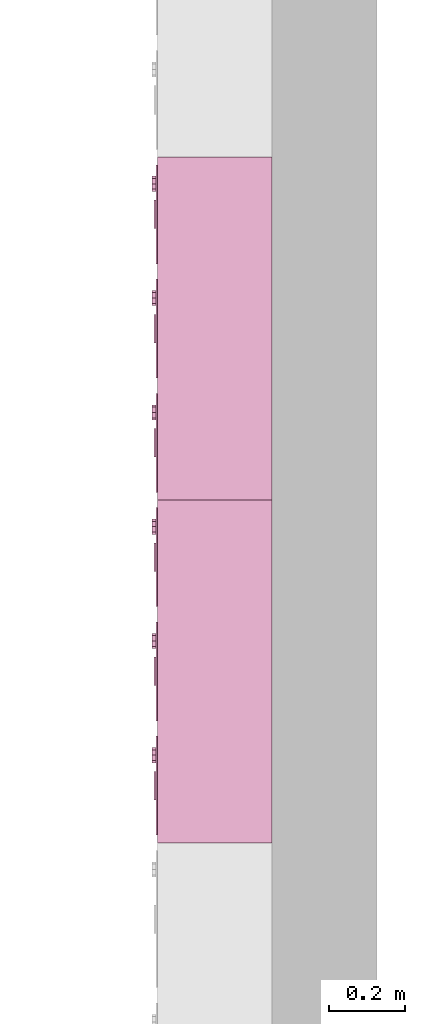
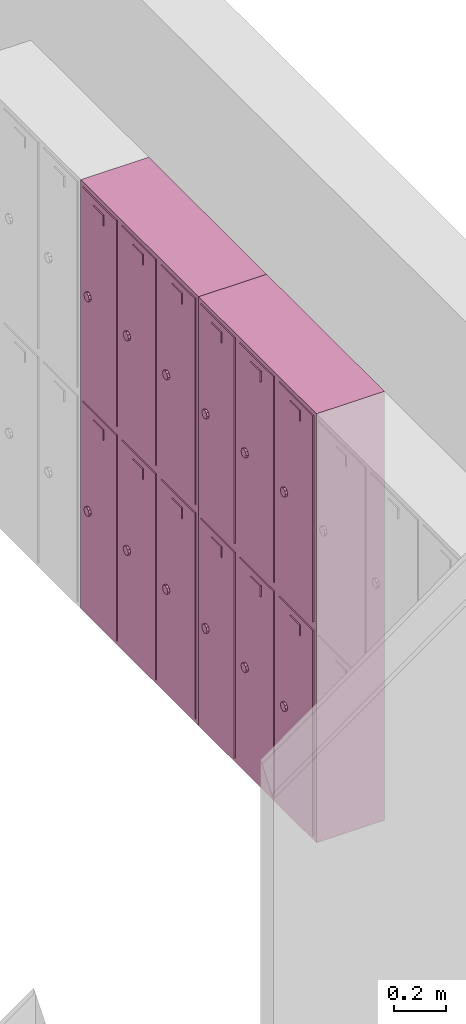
# One storey, part 12 of 22: 2 furnishings.
"""IFC2X3 building model written with IfcOpenShell, lengths in millimetres."""

from ifc_helpers import new_model, entity, si_unit, converted_unit, derived_unit, direction, frame, frame_2d, origin, origin_2d_with_axis, place, context, subcontext, project, spatial, polyline, rectangle, outline, extrude, source, transform, mapped, material, material_list, type_object, type_shapes, element, save


model = new_model("IFC2X3")

# Units and contexts
model_context = context("Model", 3, precision=0.01, world=origin(), true_north=direction((6.12303176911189e-17, 1.0)))
body_context = subcontext(model_context, "Body", "Model", "MODEL_VIEW")
ifc_project = project(units=[si_unit("LENGTHUNIT", "METRE", prefix="MILLI"), si_unit("AREAUNIT", "SQUARE_METRE"), si_unit("VOLUMEUNIT", "CUBIC_METRE"), converted_unit("PLANEANGLEUNIT", "DEGREE", entity("IfcRatioMeasure", 0.0174532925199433), si_unit("PLANEANGLEUNIT", "RADIAN"), dimensions=[0, 0, 0, 0, 0, 0, 0]), si_unit("MASSUNIT", "GRAM", prefix="KILO"), derived_unit("MASSDENSITYUNIT", [(si_unit("MASSUNIT", "GRAM", prefix="KILO"), 1), (si_unit("LENGTHUNIT", "METRE"), -3)]), si_unit("TIMEUNIT", "SECOND"), si_unit("FREQUENCYUNIT", "HERTZ"), si_unit("THERMODYNAMICTEMPERATUREUNIT", "DEGREE_CELSIUS"), derived_unit("THERMALTRANSMITTANCEUNIT", [(si_unit("MASSUNIT", "GRAM", prefix="KILO"), 1), (si_unit("THERMODYNAMICTEMPERATUREUNIT", "KELVIN"), -1), (si_unit("TIMEUNIT", "SECOND"), -3)]), derived_unit("VOLUMETRICFLOWRATEUNIT", [(si_unit("LENGTHUNIT", "METRE"), 3), (si_unit("TIMEUNIT", "SECOND"), -1)]), si_unit("ELECTRICCURRENTUNIT", "AMPERE"), si_unit("ELECTRICVOLTAGEUNIT", "VOLT"), si_unit("POWERUNIT", "WATT"), si_unit("FORCEUNIT", "NEWTON", prefix="KILO"), si_unit("ILLUMINANCEUNIT", "LUX"), si_unit("LUMINOUSFLUXUNIT", "LUMEN"), si_unit("LUMINOUSINTENSITYUNIT", "CANDELA"), derived_unit("USERDEFINED", [(si_unit("MASSUNIT", "GRAM", prefix="KILO"), -1), (si_unit("LENGTHUNIT", "METRE"), -2), (si_unit("TIMEUNIT", "SECOND"), 3), (si_unit("LUMINOUSFLUXUNIT", "LUMEN"), 1)]), derived_unit("LINEARVELOCITYUNIT", [(si_unit("LENGTHUNIT", "METRE"), 1), (si_unit("TIMEUNIT", "SECOND"), -1)]), si_unit("PRESSUREUNIT", "PASCAL"), derived_unit("USERDEFINED", [(si_unit("LENGTHUNIT", "METRE"), -2), (si_unit("MASSUNIT", "GRAM", prefix="KILO"), 1), (si_unit("TIMEUNIT", "SECOND"), -2)])], contexts=[model_context])

# Site, building, storey
site_placement = place(None, origin())
site = spatial("IfcSite", under=ifc_project, at=site_placement, Name="Default", CompositionType="ELEMENT")
building_placement = place(site_placement, origin())
building = spatial("IfcBuilding", under=site, at=building_placement, CompositionType="ELEMENT")
storey_placement = place(building_placement, frame((0.0, 0.0, -3000.0)))
storey = spatial("IfcBuildingStorey", under=building, at=storey_placement, Name="-2. Story", CompositionType="ELEMENT", Elevation=-3000.0)

# Furnishings
ifc_material_1 = material(Name="Metal - Stainless Steel")
ifc_material_2 = material(Name="Paint - Glossy White")
ifc_material_3 = material(Name="Paint - Cobalt Blue")
ifc_material_list_1 = material_list([ifc_material_1, ifc_material_2, ifc_material_3])
ifc_material_list_2 = material_list([ifc_material_1, ifc_material_2, ifc_material_3])
furniture_type_1 = type_object("IfcFurnitureType", Name="FU - 010", material=ifc_material_list_2)
shared_shape_1 = source(origin(), body_context, "Body", "SweptSolid", [
    extrude(outline(polyline([(-7.65366864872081, -18.477590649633), (7.65366864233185, -18.477590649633), (18.4775906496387, -7.65366864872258), (18.4775906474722, 7.65366864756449), (7.65366864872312, 18.4775906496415), (-7.65366864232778, 18.4775906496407), (-18.477590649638, 7.65366864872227), (-18.4775906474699, -7.65366864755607), (-7.65366864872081, -18.477590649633)])), frame((53933.5254833, 76933.9483369, -1400.0), z_axis=(1.0, 0.0, 0.0), x_axis=(0.0, 0.382683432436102, -0.923879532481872)), (0.0, 0.0, 1.0), 10.0000000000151),
    extrude(rectangle(XDim=75.0000000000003, YDim=4.99999999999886, at=origin_2d_with_axis()), frame((53941.0254833, 76853.9483369, -1000.0), z_axis=(0.0, 0.0, 1.0), x_axis=(0.0, -1.0, 0.0)), (0.0, 0.0, 1.0), 50.0),
    extrude(rectangle(XDim=260.000000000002, YDim=9.99999999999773, at=frame_2d((4.32009983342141e-12, 0.0), x_axis=(1.0, 0.0))), frame((53948.5254833, 76853.9483369, -1880.0), z_axis=(0.0, 0.0, 1.0), x_axis=(0.0, 1.0, 0.0)), (0.0, 0.0, 1.0), 960.0),
    extrude(rectangle(XDim=300.000000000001, YDim=20.0000000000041, at=frame_2d((0.0, -4.33164615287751e-12), x_axis=(1.0, 0.0))), frame((54238.5254833, 76853.9483369, -1900.0), z_axis=(0.0, 0.0, 1.0), x_axis=(0.0, -1.0, 0.0)), (0.0, 0.0, 1.0), 1000.0),
    extrude(outline(polyline([(-150.0, -500.0), (150.0, -500.0), (150.0, 500.0), (-150.0, 500.0), (-150.0, -500.0)]), holes=[polyline([(130.0, 480.0), (130.0, -480.0), (-130.0, -480.0), (-130.0, 480.0), (130.0, 480.0)])]), frame((53948.5254833, 76853.9483369, -1400.0), z_axis=(1.0, 0.0, 0.0), x_axis=(0.0, 1.0, 0.0)), (0.0, 0.0, 1.0), 279.999999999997),
    extrude(outline(polyline([(-7.65366864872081, -18.477590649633), (7.65366864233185, -18.477590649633), (18.4775906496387, -7.65366864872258), (18.4775906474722, 7.65366864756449), (7.65366864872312, 18.4775906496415), (-7.65366864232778, 18.4775906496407), (-18.477590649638, 7.65366864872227), (-18.4775906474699, -7.65366864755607), (-7.65366864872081, -18.477590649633)])), frame((53933.5254833, 77233.9483369, -1400.0), z_axis=(1.0, 0.0, 0.0), x_axis=(0.0, 0.382683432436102, -0.923879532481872)), (0.0, 0.0, 1.0), 10.0000000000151),
    extrude(rectangle(XDim=75.0000000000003, YDim=4.99999999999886, at=origin_2d_with_axis()), frame((53941.0254833, 77153.9483369, -1000.0), z_axis=(0.0, 0.0, 1.0), x_axis=(0.0, -1.0, 0.0)), (0.0, 0.0, 1.0), 50.0),
    extrude(rectangle(XDim=260.000000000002, YDim=9.99999999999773, at=frame_2d((4.32009983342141e-12, 0.0), x_axis=(1.0, 0.0))), frame((53948.5254833, 77153.9483369, -1880.0), z_axis=(0.0, 0.0, 1.0), x_axis=(0.0, 1.0, 0.0)), (0.0, 0.0, 1.0), 960.0),
    extrude(rectangle(XDim=300.000000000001, YDim=20.0000000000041, at=frame_2d((0.0, -4.33164615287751e-12), x_axis=(1.0, 0.0))), frame((54238.5254833, 77153.9483369, -1900.0), z_axis=(0.0, 0.0, 1.0), x_axis=(0.0, -1.0, 0.0)), (0.0, 0.0, 1.0), 1000.0),
    extrude(outline(polyline([(-150.0, -500.0), (150.0, -500.0), (150.0, 500.0), (-150.0, 500.0), (-150.0, -500.0)]), holes=[polyline([(130.0, 480.0), (130.0, -480.0), (-130.0, -480.0), (-130.0, 480.0), (130.0, 480.0)])]), frame((53948.5254833, 77153.9483369, -1400.0), z_axis=(1.0, 0.0, 0.0), x_axis=(0.0, 1.0, 0.0)), (0.0, 0.0, 1.0), 279.999999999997),
    extrude(outline(polyline([(-7.65366864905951, -18.4775906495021), (7.65366864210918, -18.4775906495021), (18.4775906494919, -7.65366864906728), (18.4775906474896, 7.65366864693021), (7.65366864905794, 18.4775906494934), (-7.65366864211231, 18.4775906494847), (-18.477590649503, 7.65366864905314), (-18.4775906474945, -7.65366864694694), (-7.65366864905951, -18.4775906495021)])), frame((53933.5254833, 77533.9483369, -1400.0), z_axis=(1.0, 0.0, 0.0), x_axis=(0.0, 0.382683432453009, -0.923879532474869)), (0.0, 0.0, 1.0), 10.0000000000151),
    extrude(rectangle(XDim=75.0000000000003, YDim=4.99999999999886, at=origin_2d_with_axis()), frame((53941.0254833, 77453.9483369, -1000.0), z_axis=(0.0, 0.0, 1.0), x_axis=(0.0, -1.0, 0.0)), (0.0, 0.0, 1.0), 50.0),
    extrude(rectangle(XDim=260.000000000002, YDim=9.99999999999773, at=frame_2d((4.32009983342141e-12, 0.0), x_axis=(1.0, 0.0))), frame((53948.5254833, 77453.9483369, -1880.0), z_axis=(0.0, 0.0, 1.0), x_axis=(0.0, 1.0, 0.0)), (0.0, 0.0, 1.0), 960.0),
    extrude(rectangle(XDim=300.000000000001, YDim=20.0000000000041, at=frame_2d((0.0, -4.33164615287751e-12), x_axis=(1.0, 0.0))), frame((54238.5254833, 77453.9483369, -1900.0), z_axis=(0.0, 0.0, 1.0), x_axis=(0.0, -1.0, 0.0)), (0.0, 0.0, 1.0), 1000.0),
    extrude(outline(polyline([(-150.0, -500.0), (150.0, -500.0), (150.0, 500.0), (-150.0, 500.0), (-150.0, -500.0)]), holes=[polyline([(130.0, 480.0), (130.0, -480.0), (-130.0, -480.0), (-130.0, 480.0), (130.0, 480.0)])]), frame((53948.5254833, 77453.9483369, -1400.0), z_axis=(1.0, 0.0, 0.0), x_axis=(0.0, 1.0, 0.0)), (0.0, 0.0, 1.0), 279.999999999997),
    extrude(outline(polyline([(-7.653668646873, -18.4775906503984), (7.65366864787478, -18.4775906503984), (18.4775906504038, -7.65366864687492), (18.4775906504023, 7.65366864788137), (7.65366864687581, 18.4775906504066), (-7.65366864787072, 18.4775906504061), (-18.477590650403, 7.65366864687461), (-18.4775906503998, -7.65366864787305), (-7.653668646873, -18.4775906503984)])), frame((53933.5254833, 76933.9483369, -2400.0), z_axis=(1.0, 0.0, 0.0), x_axis=(0.0, 0.382683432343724, -0.923879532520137)), (0.0, 0.0, 1.0), 10.0000000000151),
    extrude(rectangle(XDim=75.0000000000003, YDim=4.99999999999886, at=origin_2d_with_axis()), frame((53941.0254833, 76853.9483369, -2000.0), z_axis=(0.0, 0.0, 1.0), x_axis=(0.0, -1.0, 0.0)), (0.0, 0.0, 1.0), 50.0),
    extrude(rectangle(XDim=260.000000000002, YDim=9.99999999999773, at=frame_2d((4.32009983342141e-12, 0.0), x_axis=(1.0, 0.0))), frame((53948.5254833, 76853.9483369, -2880.0), z_axis=(0.0, 0.0, 1.0), x_axis=(0.0, 1.0, 0.0)), (0.0, 0.0, 1.0), 960.0),
    extrude(rectangle(XDim=300.000000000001, YDim=20.0000000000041, at=frame_2d((0.0, -4.33164615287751e-12), x_axis=(1.0, 0.0))), frame((54238.5254833, 76853.9483369, -2900.0), z_axis=(0.0, 0.0, 1.0), x_axis=(0.0, -1.0, 0.0)), (0.0, 0.0, 1.0), 1000.0),
    extrude(outline(polyline([(-150.0, -500.0), (150.0, -500.0), (150.0, 500.0), (-150.0, 500.0), (-150.0, -500.0)]), holes=[polyline([(130.0, 480.0), (130.0, -480.0), (-130.0, -480.0), (-130.0, 480.0), (130.0, 480.0)])]), frame((53948.5254833, 76853.9483369, -2400.0), z_axis=(1.0, 0.0, 0.0), x_axis=(0.0, 1.0, 0.0)), (0.0, 0.0, 1.0), 279.999999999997),
    extrude(outline(polyline([(-7.653668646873, -18.4775906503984), (7.65366864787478, -18.4775906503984), (18.4775906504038, -7.65366864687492), (18.4775906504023, 7.65366864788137), (7.65366864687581, 18.4775906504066), (-7.65366864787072, 18.4775906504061), (-18.477590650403, 7.65366864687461), (-18.4775906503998, -7.65366864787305), (-7.653668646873, -18.4775906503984)])), frame((53933.5254833, 77233.9483369, -2400.0), z_axis=(1.0, 0.0, 0.0), x_axis=(0.0, 0.382683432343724, -0.923879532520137)), (0.0, 0.0, 1.0), 10.0000000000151),
    extrude(rectangle(XDim=75.0000000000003, YDim=4.99999999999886, at=origin_2d_with_axis()), frame((53941.0254833, 77153.9483369, -2000.0), z_axis=(0.0, 0.0, 1.0), x_axis=(0.0, -1.0, 0.0)), (0.0, 0.0, 1.0), 50.0),
    extrude(rectangle(XDim=260.000000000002, YDim=9.99999999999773, at=frame_2d((4.32009983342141e-12, 0.0), x_axis=(1.0, 0.0))), frame((53948.5254833, 77153.9483369, -2880.0), z_axis=(0.0, 0.0, 1.0), x_axis=(0.0, 1.0, 0.0)), (0.0, 0.0, 1.0), 960.0),
    extrude(rectangle(XDim=300.000000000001, YDim=20.0000000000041, at=frame_2d((0.0, -4.33164615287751e-12), x_axis=(1.0, 0.0))), frame((54238.5254833, 77153.9483369, -2900.0), z_axis=(0.0, 0.0, 1.0), x_axis=(0.0, -1.0, 0.0)), (0.0, 0.0, 1.0), 1000.0),
    extrude(outline(polyline([(-150.0, -500.0), (150.0, -500.0), (150.0, 500.0), (-150.0, 500.0), (-150.0, -500.0)]), holes=[polyline([(130.0, 480.0), (130.0, -480.0), (-130.0, -480.0), (-130.0, 480.0), (130.0, 480.0)])]), frame((53948.5254833, 77153.9483369, -2400.0), z_axis=(1.0, 0.0, 0.0), x_axis=(0.0, 1.0, 0.0)), (0.0, 0.0, 1.0), 279.999999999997),
    extrude(outline(polyline([(-7.6536686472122, -18.4775906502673), (7.65366864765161, -18.4775906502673), (18.4775906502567, -7.65366864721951), (18.4775906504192, 7.65366864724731), (7.65366864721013, 18.4775906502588), (-7.65366864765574, 18.4775906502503), (-18.4775906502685, 7.65366864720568), (-18.4775906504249, -7.65366864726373), (-7.6536686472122, -18.4775906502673)])), frame((53933.5254833, 77533.9483369, -2400.0), z_axis=(1.0, 0.0, 0.0), x_axis=(0.0, 0.382683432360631, -0.923879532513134)), (0.0, 0.0, 1.0), 10.0000000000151),
    extrude(rectangle(XDim=75.0000000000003, YDim=4.99999999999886, at=origin_2d_with_axis()), frame((53941.0254833, 77453.9483369, -2000.0), z_axis=(0.0, 0.0, 1.0), x_axis=(0.0, -1.0, 0.0)), (0.0, 0.0, 1.0), 50.0),
    extrude(rectangle(XDim=260.000000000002, YDim=9.99999999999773, at=frame_2d((4.32009983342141e-12, 0.0), x_axis=(1.0, 0.0))), frame((53948.5254833, 77453.9483369, -2880.0), z_axis=(0.0, 0.0, 1.0), x_axis=(0.0, 1.0, 0.0)), (0.0, 0.0, 1.0), 960.0),
    extrude(rectangle(XDim=300.000000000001, YDim=20.0000000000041, at=frame_2d((0.0, -4.33164615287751e-12), x_axis=(1.0, 0.0))), frame((54238.5254833, 77453.9483369, -2900.0), z_axis=(0.0, 0.0, 1.0), x_axis=(0.0, -1.0, 0.0)), (0.0, 0.0, 1.0), 1000.0),
    extrude(outline(polyline([(-150.0, -500.0), (150.0, -500.0), (150.0, 500.0), (-150.0, 500.0), (-150.0, -500.0)]), holes=[polyline([(130.0, 480.0), (130.0, -480.0), (-130.0, -480.0), (-130.0, 480.0), (130.0, 480.0)])]), frame((53948.5254833, 77453.9483369, -2400.0), z_axis=(1.0, 0.0, 0.0), x_axis=(0.0, 1.0, 0.0)), (0.0, 0.0, 1.0), 279.999999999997),
])
type_shapes(furniture_type_1, [shared_shape_1])
furnishing_1_placement = place(storey_placement, frame((0.0, 0.0, 3000.0)))
element("IfcFurnishingElement", 1, at=furnishing_1_placement, inside=storey, type_object=furniture_type_1, material=ifc_material_list_1, Name="FU - 010 1524329:FU - 010 1524329", ObjectType="FU - 010 1524329:FU - 010 1524329", context=body_context, shape_type="MappedRepresentation", body=[
    mapped(shared_shape_1, transform((0.0, 0.0, 0.0), scale=1.0)),
])
ifc_material_list_3 = material_list([ifc_material_1, ifc_material_2, ifc_material_3])
ifc_material_list_4 = material_list([ifc_material_1, ifc_material_2, ifc_material_3])
furniture_type_2 = type_object("IfcFurnitureType", Name="FU - 010", material=ifc_material_list_4)
shared_shape_2 = source(origin(), body_context, "Body", "SweptSolid", [
    extrude(outline(polyline([(-7.65366864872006, -18.4775906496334), (7.6536686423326, -18.4775906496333), (18.4775906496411, -7.65366864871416), (18.477590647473, 7.65366864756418), (7.65366864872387, 18.4775906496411), (-7.65366864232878, 18.4775906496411), (-18.4775906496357, 7.65366864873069), (-18.4775906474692, -7.65366864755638), (-7.65366864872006, -18.4775906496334)])), frame((53933.5254833, 76033.9483369, -1400.0), z_axis=(1.0, 0.0, 0.0), x_axis=(0.0, 0.382683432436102, -0.923879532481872)), (0.0, 0.0, 1.0), 10.0000000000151),
    extrude(rectangle(XDim=75.0000000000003, YDim=4.99999999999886, at=origin_2d_with_axis()), frame((53941.0254833, 75953.9483369, -1000.0), z_axis=(0.0, 0.0, 1.0), x_axis=(0.0, -1.0, 0.0)), (0.0, 0.0, 1.0), 50.0),
    extrude(rectangle(XDim=260.000000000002, YDim=9.99999999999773, at=frame_2d((4.32009983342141e-12, 0.0), x_axis=(1.0, 0.0))), frame((53948.5254833, 75953.9483369, -1880.0), z_axis=(0.0, 0.0, 1.0), x_axis=(0.0, 1.0, 0.0)), (0.0, 0.0, 1.0), 960.0),
    extrude(rectangle(XDim=300.000000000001, YDim=20.0000000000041, at=frame_2d((0.0, -4.33164615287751e-12), x_axis=(1.0, 0.0))), frame((54238.5254833, 75953.9483369, -1900.0), z_axis=(0.0, 0.0, 1.0), x_axis=(0.0, -1.0, 0.0)), (0.0, 0.0, 1.0), 1000.0),
    extrude(outline(polyline([(-150.0, -500.0), (150.0, -500.0), (150.0, 500.0), (-150.0, 500.0), (-150.0, -500.0)]), holes=[polyline([(130.0, 480.0), (130.0, -480.0), (-130.0, -480.0), (-130.0, 480.0), (130.0, 480.0)])]), frame((53948.5254833, 75953.9483369, -1400.0), z_axis=(1.0, 0.0, 0.0), x_axis=(0.0, 1.0, 0.0)), (0.0, 0.0, 1.0), 279.999999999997),
    extrude(outline(polyline([(-7.65366864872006, -18.4775906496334), (7.6536686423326, -18.4775906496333), (18.4775906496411, -7.65366864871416), (18.477590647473, 7.65366864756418), (7.65366864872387, 18.4775906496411), (-7.65366864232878, 18.4775906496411), (-18.4775906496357, 7.65366864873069), (-18.4775906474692, -7.65366864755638), (-7.65366864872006, -18.4775906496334)])), frame((53933.5254833, 76333.9483369, -1400.0), z_axis=(1.0, 0.0, 0.0), x_axis=(0.0, 0.382683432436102, -0.923879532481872)), (0.0, 0.0, 1.0), 10.0000000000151),
    extrude(rectangle(XDim=75.0000000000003, YDim=4.99999999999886, at=origin_2d_with_axis()), frame((53941.0254833, 76253.9483369, -1000.0), z_axis=(0.0, 0.0, 1.0), x_axis=(0.0, -1.0, 0.0)), (0.0, 0.0, 1.0), 50.0),
    extrude(rectangle(XDim=260.000000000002, YDim=9.99999999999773, at=frame_2d((4.32009983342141e-12, 0.0), x_axis=(1.0, 0.0))), frame((53948.5254833, 76253.9483369, -1880.0), z_axis=(0.0, 0.0, 1.0), x_axis=(0.0, 1.0, 0.0)), (0.0, 0.0, 1.0), 960.0),
    extrude(rectangle(XDim=300.000000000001, YDim=20.0000000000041, at=frame_2d((0.0, -4.33164615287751e-12), x_axis=(1.0, 0.0))), frame((54238.5254833, 76253.9483369, -1900.0), z_axis=(0.0, 0.0, 1.0), x_axis=(0.0, -1.0, 0.0)), (0.0, 0.0, 1.0), 1000.0),
    extrude(outline(polyline([(-150.0, -500.0), (150.0, -500.0), (150.0, 500.0), (-150.0, 500.0), (-150.0, -500.0)]), holes=[polyline([(130.0, 480.0), (130.0, -480.0), (-130.0, -480.0), (-130.0, 480.0), (130.0, 480.0)])]), frame((53948.5254833, 76253.9483369, -1400.0), z_axis=(1.0, 0.0, 0.0), x_axis=(0.0, 1.0, 0.0)), (0.0, 0.0, 1.0), 279.999999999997),
    extrude(outline(polyline([(-7.65366864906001, -18.4775906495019), (7.65366864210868, -18.4775906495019), (18.4775906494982, -7.65366864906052), (18.4775906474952, 7.65366864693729), (7.65366864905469, 18.4775906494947), (-7.65366864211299, 18.4775906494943), (-18.4775906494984, 7.65366864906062), (-18.477590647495, -7.65366864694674), (-7.65366864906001, -18.4775906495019)])), frame((53933.5254833, 76633.9483369, -1400.0), z_axis=(1.0, 0.0, 0.0), x_axis=(0.0, 0.382683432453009, -0.923879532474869)), (0.0, 0.0, 1.0), 10.0000000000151),
    extrude(rectangle(XDim=75.0000000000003, YDim=4.99999999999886, at=origin_2d_with_axis()), frame((53941.0254833, 76553.9483369, -1000.0), z_axis=(0.0, 0.0, 1.0), x_axis=(0.0, -1.0, 0.0)), (0.0, 0.0, 1.0), 50.0),
    extrude(rectangle(XDim=260.000000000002, YDim=9.99999999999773, at=frame_2d((4.32009983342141e-12, 0.0), x_axis=(1.0, 0.0))), frame((53948.5254833, 76553.9483369, -1880.0), z_axis=(0.0, 0.0, 1.0), x_axis=(0.0, 1.0, 0.0)), (0.0, 0.0, 1.0), 960.0),
    extrude(rectangle(XDim=299.999999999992, YDim=20.0000000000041, at=frame_2d((-4.32009983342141e-12, -4.33164615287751e-12), x_axis=(1.0, 0.0))), frame((54238.5254833, 76553.9483369, -1900.0), z_axis=(0.0, 0.0, 1.0), x_axis=(0.0, -1.0, 0.0)), (0.0, 0.0, 1.0), 1000.0),
    extrude(outline(polyline([(-150.0, -500.0), (150.0, -500.0), (150.0, 500.0), (-150.0, 500.0), (-150.0, -500.0)]), holes=[polyline([(130.0, 480.0), (130.0, -480.0), (-130.0, -480.0), (-130.0, 480.0), (130.0, 480.0)])]), frame((53948.5254833, 76553.9483369, -1400.0), z_axis=(1.0, 0.0, 0.0), x_axis=(0.0, 1.0, 0.0)), (0.0, 0.0, 1.0), 279.999999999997),
    extrude(outline(polyline([(-7.65366864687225, -18.4775906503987), (7.65366864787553, -18.4775906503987), (18.4775906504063, -7.65366864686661), (18.4775906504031, 7.65366864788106), (7.65366864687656, 18.4775906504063), (-7.65366864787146, 18.4775906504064), (-18.4775906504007, 7.65366864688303), (-18.477590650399, -7.65366864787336), (-7.65366864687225, -18.4775906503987)])), frame((53933.5254833, 76033.9483369, -2400.0), z_axis=(1.0, 0.0, 0.0), x_axis=(0.0, 0.382683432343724, -0.923879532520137)), (0.0, 0.0, 1.0), 10.0000000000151),
    extrude(rectangle(XDim=75.0000000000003, YDim=4.99999999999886, at=origin_2d_with_axis()), frame((53941.0254833, 75953.9483369, -2000.0), z_axis=(0.0, 0.0, 1.0), x_axis=(0.0, -1.0, 0.0)), (0.0, 0.0, 1.0), 50.0),
    extrude(rectangle(XDim=260.000000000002, YDim=9.99999999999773, at=frame_2d((4.32009983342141e-12, 0.0), x_axis=(1.0, 0.0))), frame((53948.5254833, 75953.9483369, -2880.0), z_axis=(0.0, 0.0, 1.0), x_axis=(0.0, 1.0, 0.0)), (0.0, 0.0, 1.0), 960.0),
    extrude(rectangle(XDim=300.000000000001, YDim=20.0000000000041, at=frame_2d((0.0, -4.33164615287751e-12), x_axis=(1.0, 0.0))), frame((54238.5254833, 75953.9483369, -2900.0), z_axis=(0.0, 0.0, 1.0), x_axis=(0.0, -1.0, 0.0)), (0.0, 0.0, 1.0), 1000.0),
    extrude(outline(polyline([(-150.0, -500.0), (150.0, -500.0), (150.0, 500.0), (-150.0, 500.0), (-150.0, -500.0)]), holes=[polyline([(130.0, 480.0), (130.0, -480.0), (-130.0, -480.0), (-130.0, 480.0), (130.0, 480.0)])]), frame((53948.5254833, 75953.9483369, -2400.0), z_axis=(1.0, 0.0, 0.0), x_axis=(0.0, 1.0, 0.0)), (0.0, 0.0, 1.0), 279.999999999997),
    extrude(outline(polyline([(-7.65366864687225, -18.4775906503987), (7.65366864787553, -18.4775906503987), (18.4775906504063, -7.65366864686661), (18.4775906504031, 7.65366864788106), (7.65366864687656, 18.4775906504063), (-7.65366864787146, 18.4775906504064), (-18.4775906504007, 7.65366864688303), (-18.477590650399, -7.65366864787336), (-7.65366864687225, -18.4775906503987)])), frame((53933.5254833, 76333.9483369, -2400.0), z_axis=(1.0, 0.0, 0.0), x_axis=(0.0, 0.382683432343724, -0.923879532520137)), (0.0, 0.0, 1.0), 10.0000000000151),
    extrude(rectangle(XDim=75.0000000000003, YDim=4.99999999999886, at=origin_2d_with_axis()), frame((53941.0254833, 76253.9483369, -2000.0), z_axis=(0.0, 0.0, 1.0), x_axis=(0.0, -1.0, 0.0)), (0.0, 0.0, 1.0), 50.0),
    extrude(rectangle(XDim=260.000000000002, YDim=9.99999999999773, at=frame_2d((4.32009983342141e-12, 0.0), x_axis=(1.0, 0.0))), frame((53948.5254833, 76253.9483369, -2880.0), z_axis=(0.0, 0.0, 1.0), x_axis=(0.0, 1.0, 0.0)), (0.0, 0.0, 1.0), 960.0),
    extrude(rectangle(XDim=300.000000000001, YDim=20.0000000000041, at=frame_2d((0.0, -4.33164615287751e-12), x_axis=(1.0, 0.0))), frame((54238.5254833, 76253.9483369, -2900.0), z_axis=(0.0, 0.0, 1.0), x_axis=(0.0, -1.0, 0.0)), (0.0, 0.0, 1.0), 1000.0),
    extrude(outline(polyline([(-150.0, -500.0), (150.0, -500.0), (150.0, 500.0), (-150.0, 500.0), (-150.0, -500.0)]), holes=[polyline([(130.0, 480.0), (130.0, -480.0), (-130.0, -480.0), (-130.0, 480.0), (130.0, 480.0)])]), frame((53948.5254833, 76253.9483369, -2400.0), z_axis=(1.0, 0.0, 0.0), x_axis=(0.0, 1.0, 0.0)), (0.0, 0.0, 1.0), 279.999999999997),
    extrude(outline(polyline([(-7.65366864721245, -18.4775906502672), (7.65366864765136, -18.4775906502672), (18.477590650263, -7.65366864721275), (18.477590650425, 7.65366864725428), (7.65366864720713, 18.47759065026), (-7.65366864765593, 18.4775906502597), (-18.4775906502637, 7.65366864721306), (-18.4775906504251, -7.65366864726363), (-7.65366864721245, -18.4775906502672)])), frame((53933.5254833, 76633.9483369, -2400.0), z_axis=(1.0, 0.0, 0.0), x_axis=(0.0, 0.382683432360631, -0.923879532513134)), (0.0, 0.0, 1.0), 10.0000000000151),
    extrude(rectangle(XDim=75.0000000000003, YDim=4.99999999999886, at=origin_2d_with_axis()), frame((53941.0254833, 76553.9483369, -2000.0), z_axis=(0.0, 0.0, 1.0), x_axis=(0.0, -1.0, 0.0)), (0.0, 0.0, 1.0), 50.0),
    extrude(rectangle(XDim=260.000000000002, YDim=9.99999999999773, at=frame_2d((4.32009983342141e-12, 0.0), x_axis=(1.0, 0.0))), frame((53948.5254833, 76553.9483369, -2880.0), z_axis=(0.0, 0.0, 1.0), x_axis=(0.0, 1.0, 0.0)), (0.0, 0.0, 1.0), 960.0),
    extrude(rectangle(XDim=299.999999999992, YDim=20.0000000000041, at=frame_2d((-4.32009983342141e-12, -4.33164615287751e-12), x_axis=(1.0, 0.0))), frame((54238.5254833, 76553.9483369, -2900.0), z_axis=(0.0, 0.0, 1.0), x_axis=(0.0, -1.0, 0.0)), (0.0, 0.0, 1.0), 1000.0),
    extrude(outline(polyline([(-150.0, -500.0), (150.0, -500.0), (150.0, 500.0), (-150.0, 500.0), (-150.0, -500.0)]), holes=[polyline([(130.0, 480.0), (130.0, -480.0), (-130.0, -480.0), (-130.0, 480.0), (130.0, 480.0)])]), frame((53948.5254833, 76553.9483369, -2400.0), z_axis=(1.0, 0.0, 0.0), x_axis=(0.0, 1.0, 0.0)), (0.0, 0.0, 1.0), 279.999999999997),
])
type_shapes(furniture_type_2, [shared_shape_2])
furnishing_2_placement = place(storey_placement, frame((0.0, 0.0, 3000.0)))
element("IfcFurnishingElement", 2, at=furnishing_2_placement, inside=storey, type_object=furniture_type_2, material=ifc_material_list_3, Name="FU - 010 1524512:FU - 010 1524512", ObjectType="FU - 010 1524512:FU - 010 1524512", context=body_context, shape_type="MappedRepresentation", body=[
    mapped(shared_shape_2, transform((0.0, 0.0, 0.0), scale=1.0)),
])

save(model, "model.ifc")
